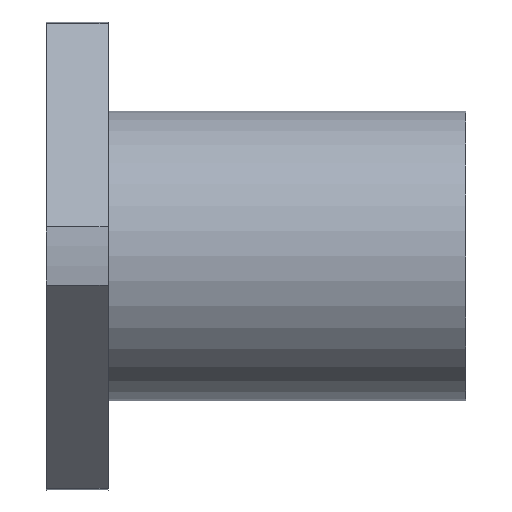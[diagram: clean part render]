
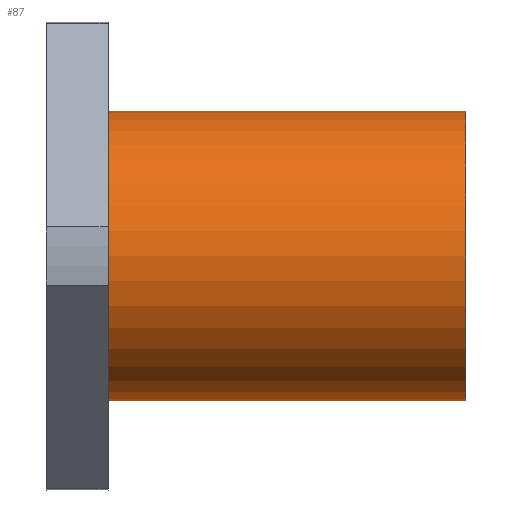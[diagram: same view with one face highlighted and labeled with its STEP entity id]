
A CAD part, front view. The second image highlights one B-rep face of the part: STEP entity #87.
In plain terms, the highlighted cylindrical face has radius 23.5 mm (diameter 47 mm), a full revolution.
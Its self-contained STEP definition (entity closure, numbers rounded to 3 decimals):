
#87 = ADVANCED_FACE( '', ( #138, #139 ), #140, .T. );
#138 = FACE_OUTER_BOUND( '', #213, .T. );
#139 = FACE_OUTER_BOUND( '', #214, .T. );
#140 = CYLINDRICAL_SURFACE( '', #215, 23.5 );
#213 = EDGE_LOOP( '', ( #347 ) );
#214 = EDGE_LOOP( '', ( #348 ) );
#215 = AXIS2_PLACEMENT_3D( '', #349, #350, #351 );
#347 = ORIENTED_EDGE( '', *, *, #438, .T. );
#348 = ORIENTED_EDGE( '', *, *, #450, .F. );
#349 = CARTESIAN_POINT( '', ( 68., 0., 0. ) );
#350 = DIRECTION( '', ( -1., 0., 0. ) );
#351 = DIRECTION( '', ( 0., 0., -1. ) );
#438 = EDGE_CURVE( '', #500, #500, #501, .T. );
#450 = EDGE_CURVE( '', #522, #522, #523, .T. );
#500 = VERTEX_POINT( '', #594 );
#501 = CIRCLE( '', #595, 23.5 );
#522 = VERTEX_POINT( '', #618 );
#523 = CIRCLE( '', #619, 23.5 );
#594 = CARTESIAN_POINT( '', ( 10., 0., -23.5 ) );
#595 = AXIS2_PLACEMENT_3D( '', #678, #679, #680 );
#618 = CARTESIAN_POINT( '', ( 68., 0., -23.5 ) );
#619 = AXIS2_PLACEMENT_3D( '', #710, #711, #712 );
#678 = CARTESIAN_POINT( '', ( 10., 0., 0. ) );
#679 = DIRECTION( '', ( 1., 0., 0. ) );
#680 = DIRECTION( '', ( 0., 0., -1. ) );
#710 = CARTESIAN_POINT( '', ( 68., 0., 0. ) );
#711 = DIRECTION( '', ( 1., 0., 0. ) );
#712 = DIRECTION( '', ( 0., 0., -1. ) );
